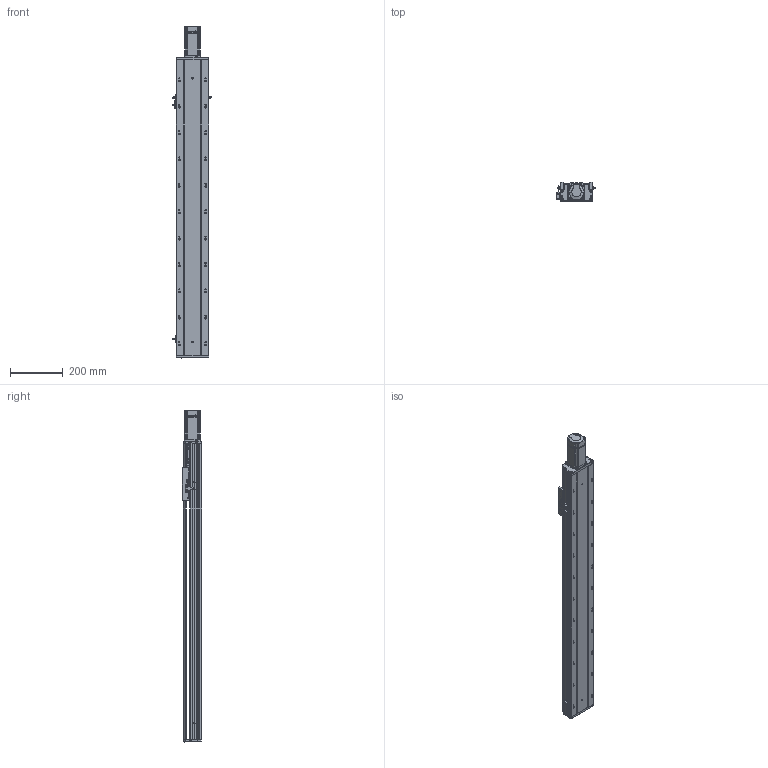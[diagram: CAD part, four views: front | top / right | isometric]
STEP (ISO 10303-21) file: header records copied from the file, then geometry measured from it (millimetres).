
FILE_DESCRIPTION (( 'STEP AP203' ), '1' );
FILE_NAME ('RYK120-L1610-S8500-M40-C3-MK.STEP', '2026-03-09T07:24:55', ( '' ), ( '' ), 'SwSTEP 2.0', 'SolidWorks 2016', '' );
FILE_SCHEMA (( 'CONFIG_CONTROL_DESIGN' ));
Length unit declared in the file: millimetre
Products named in the file (17): 覜茼ん672; RY120-16螺母油路-集中注油组合; 滅袉蝶18-10; RY120外置感应片(140共用）; 侂狟400W侜督萇儂; RY120电机端支撑座-压铸加工-M5; RYK170-薊粣ん芵隴裔啣; RY120QGB-1.8; RY120綴裔啣; CB╱T 3762-1996[锥形润滑油嘴1-ZM10×1]_1-ZM10×1; RYK120-300-MK-奻裔啣-啞_850; 滅袉蝶18-24; RYK120-L1610-S8500-M40-C3-MK; 2.10.1.C521-V1.0RY120臏賑輸16蹟譫-啞-JZZY-NRL-L1899; 44-49-12-14; 15; RYK120-300-MK-菁釱-啞_850
Assembly tree (21 placements, depth 3):
  RYK120-L1610-S8500-M40-C3-MK
    RYK120-300-MK-菁釱-啞_850
    RYK120-300-MK-奻裔啣-啞_850
    RY120綴裔啣
    滅袉蝶18-24  x2
    滅袉蝶18-10  x2
    覜茼ん672  x3
    RY120外置感应片(140共用）
    RY120QGB-1.8
    RY120-16螺母油路-集中注油组合
      2.10.1.C521-V1.0RY120臏賑輸16蹟譫-啞-JZZY-NRL-L1899
      CB╱T 3762-1996[锥形润滑油嘴1-ZM10×1]_1-ZM10×1  x2
    RY120电机端支撑座-压铸加工-M5
    RYK170-薊粣ん芵隴裔啣
    44-49-12-14
    侂狟400W侜督萇儂
      15
Bounding box: 145.7 x 73 x 1258.5 mm (x, y, z)
Volume: 3365313.8 mm3; surface area: 1185477.1 mm2
Topology: 23 solids, 23 shells, 2778 faces, 7770 edges, 4977 vertices
Faces by surface type: plane 1241, cylinder 1131, cone 279, bspline 127
Entity records: 94322 total; most frequent: CARTESIAN_POINT 28082, ORIENTED_EDGE 14032, DIRECTION 12683, EDGE_CURVE 7016, VERTEX_POINT 4589, AXIS2_PLACEMENT_3D 4382, VECTOR 3919, LINE 3919
